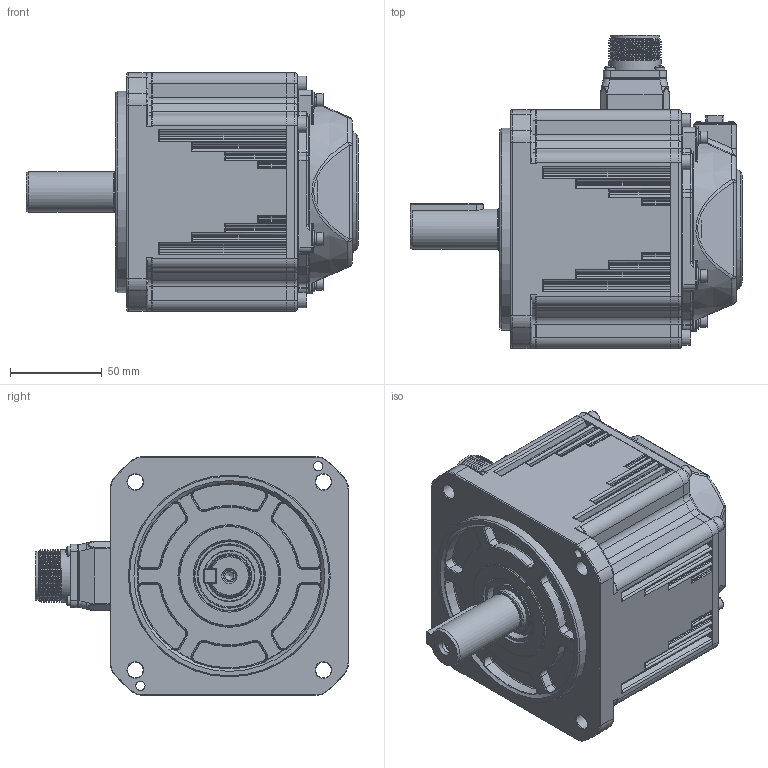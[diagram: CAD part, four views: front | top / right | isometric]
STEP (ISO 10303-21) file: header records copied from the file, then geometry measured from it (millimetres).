
FILE_DESCRIPTION (( 'STEP AP203' ), '1' );
FILE_NAME ('俋倛芞ACM1M-1309.STEP', '2023-01-10T03:54:31', ( '' ), ( '' ), 'SwSTEP 2.0', 'SolidWorks 2021', '' );
FILE_SCHEMA (( 'CONFIG_CONTROL_DESIGN' ));
Length unit declared in the file: millimetre
Products named in the file (14): 130晤鎢ん裔1M; 130蛌粣09-XX 粣扥耳22 40Cr DC RoHS_LX晤鎢ん; C型平键8×7×45螺纹拆卸型; 1M晤鎢脣釱+蹟隊; 130航插安装座密封垫 38.6×36.6×1.35 NBR HA70 RoHS; 俋倛芞ACM1M-1309; 晤鎢裔蹟隊; 萇埭脣釱蹟隊_M3℅10; 綴傷裔蹟隊_M5℅20; 航插动力接插件 4芯 SZ RoHS; 130后端盖 卡簧式 高30.9 ADC12 LM RoHS_加工; ﾓﾍｷ筌ｻTC｣ｻ24｡ﾁ38｡ﾁ7｣ｻSOG; 130前端盖0.85、1.3、1.8_成品-0.85; 130瑤脣假蚾釱
Assembly tree (22 placements, depth 2):
  俋倛芞ACM1M-1309
    130前端盖0.85、1.3、1.8_成品-0.85
    130蛌粣09-XX 粣扥耳22 40Cr DC RoHS_LX晤鎢ん
    130后端盖 卡簧式 高30.9 ADC12 LM RoHS_加工
    130晤鎢ん裔1M
    綴傷裔蹟隊_M5℅20  x4
    晤鎢裔蹟隊  x4
    130瑤脣假蚾釱
    130航插安装座密封垫 38.6×36.6×1.35 NBR HA70 RoHS
    1M晤鎢脣釱+蹟隊
    航插动力接插件 4芯 SZ RoHS
    萇埭脣釱蹟隊_M3℅10  x4
    ﾓﾍｷ筌ｻTC｣ｻ24｡ﾁ38｡ﾁ7｣ｻSOG
    C型平键8×7×45螺纹拆卸型
Bounding box: 181 x 170.7 x 130 mm (x, y, z)
Volume: 1988483.7 mm3; surface area: 209004.8 mm2
Topology: 35 solids, 42 shells, 3192 faces, 8255 edges, 5198 vertices
Faces by surface type: plane 1572, cylinder 849, torus 383, bspline 289, cone 88, sphere 11
Full cylindrical faces by diameter (mm): 1.5 x6, 1.6 x8, 2 x1, 2.2 x2, 2.4 x4, 2.48 x4, 2.5 x4, 2.598 x4, 2.6 x2, 2.8 x4, 3 x5, 3.08 x1, 3.2 x8, 3.3 x5, 3.5 x4, 3.7 x4, 3.9 x4, 4 x4, 4.2 x4, 4.5 x8, 5 x7, 5.5 x4, 5.6 x4, 6.4 x1, 7 x4, 8.5 x8, 9 x4, 21.7 x1, 21.9 x2, 22 x1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
Entity records: 122239 total; most frequent: CARTESIAN_POINT 51042, ORIENTED_EDGE 14764, DIRECTION 13685, EDGE_CURVE 7382, AXIS2_PLACEMENT_3D 4835, VERTEX_POINT 4808, VECTOR 4015, LINE 4015
